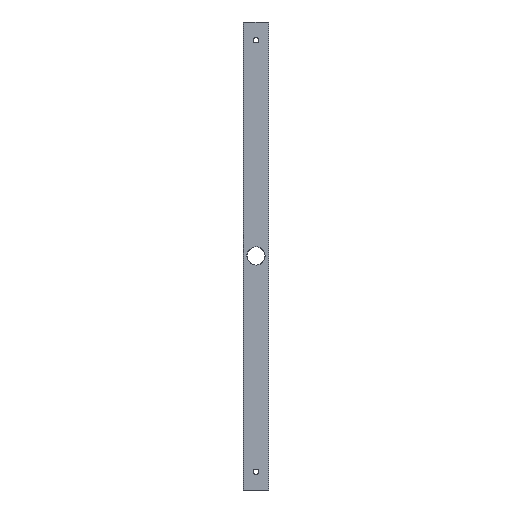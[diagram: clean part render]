
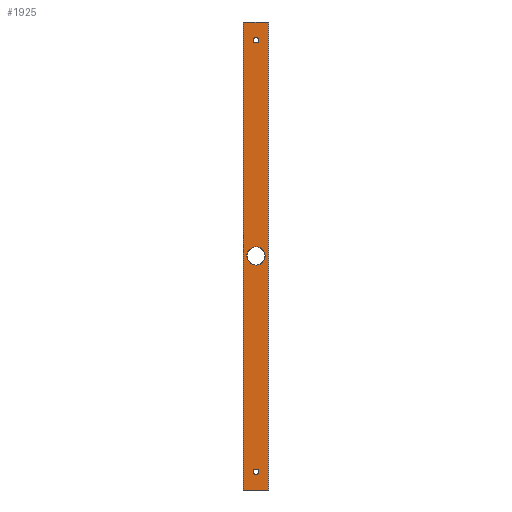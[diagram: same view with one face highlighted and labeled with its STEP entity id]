
A CAD part, front view. The second image highlights one B-rep face of the part: STEP entity #1925.
In plain terms, the highlighted planar face has unit normal (0, -1, 0).
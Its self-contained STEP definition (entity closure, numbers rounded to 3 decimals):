
#20=CIRCLE('',#2049,3.);
#21=CIRCLE('',#2050,3.);
#22=CIRCLE('',#2051,10.);
#129=PLANE('',#2048);
#180=LINE('',#2919,#342);
#181=LINE('',#2922,#343);
#182=LINE('',#2924,#344);
#183=LINE('',#2926,#345);
#342=VECTOR('',#2289,1000.);
#343=VECTOR('',#2290,1000.);
#344=VECTOR('',#2291,1000.);
#345=VECTOR('',#2292,1000.);
#532=ORIENTED_EDGE('',*,*,#1130,.T.);
#533=ORIENTED_EDGE('',*,*,#1131,.F.);
#534=ORIENTED_EDGE('',*,*,#1132,.F.);
#535=ORIENTED_EDGE('',*,*,#1133,.T.);
#536=ORIENTED_EDGE('',*,*,#1134,.T.);
#537=ORIENTED_EDGE('',*,*,#1135,.T.);
#538=ORIENTED_EDGE('',*,*,#1136,.T.);
#1130=EDGE_CURVE('',#1425,#1426,#180,.T.);
#1131=EDGE_CURVE('',#1427,#1426,#181,.T.);
#1132=EDGE_CURVE('',#1428,#1427,#182,.T.);
#1133=EDGE_CURVE('',#1428,#1425,#183,.T.);
#1134=EDGE_CURVE('',#1429,#1429,#20,.T.);
#1135=EDGE_CURVE('',#1430,#1430,#21,.T.);
#1136=EDGE_CURVE('',#1431,#1431,#22,.T.);
#1425=VERTEX_POINT('',#2920);
#1426=VERTEX_POINT('',#2921);
#1427=VERTEX_POINT('',#2923);
#1428=VERTEX_POINT('',#2925);
#1429=VERTEX_POINT('',#2928);
#1430=VERTEX_POINT('',#2930);
#1431=VERTEX_POINT('',#2932);
#1650=EDGE_LOOP('',(#532,#533,#534,#535));
#1651=EDGE_LOOP('',(#536));
#1652=EDGE_LOOP('',(#537));
#1653=EDGE_LOOP('',(#538));
#1758=FACE_BOUND('',#1650,.T.);
#1759=FACE_BOUND('',#1651,.T.);
#1760=FACE_BOUND('',#1652,.T.);
#1761=FACE_BOUND('',#1653,.T.);
#1925=ADVANCED_FACE('',(#1758,#1759,#1760,#1761),#129,.F.);
#2048=AXIS2_PLACEMENT_3D('',#2918,#2287,#2288);
#2049=AXIS2_PLACEMENT_3D('',#2927,#2293,#2294);
#2050=AXIS2_PLACEMENT_3D('',#2929,#2295,#2296);
#2051=AXIS2_PLACEMENT_3D('',#2931,#2297,#2298);
#2287=DIRECTION('',(0.,1.,0.));
#2288=DIRECTION('',(-1.,0.,0.));
#2289=DIRECTION('',(1.,0.,0.));
#2290=DIRECTION('',(0.,0.,-1.));
#2291=DIRECTION('',(1.,0.,0.));
#2292=DIRECTION('',(0.,0.,-1.));
#2293=DIRECTION('',(0.,1.,0.));
#2294=DIRECTION('',(1.,0.,0.));
#2295=DIRECTION('',(0.,1.,0.));
#2296=DIRECTION('',(1.,0.,0.));
#2297=DIRECTION('',(0.,1.,0.));
#2298=DIRECTION('',(0.,0.,-1.));
#2918=CARTESIAN_POINT('',(-13.5,-32.,256.5));
#2919=CARTESIAN_POINT('',(-13.5,-32.,-256.5));
#2920=CARTESIAN_POINT('',(-13.5,-32.,-256.5));
#2921=CARTESIAN_POINT('',(13.5,-32.,-256.5));
#2922=CARTESIAN_POINT('',(13.5,-32.,256.5));
#2923=CARTESIAN_POINT('',(13.5,-32.,256.5));
#2924=CARTESIAN_POINT('',(-13.5,-32.,256.5));
#2925=CARTESIAN_POINT('',(-13.5,-32.,256.5));
#2926=CARTESIAN_POINT('',(-13.5,-32.,256.5));
#2927=CARTESIAN_POINT('',(0.,-32.,236.5));
#2928=CARTESIAN_POINT('',(3.,-32.,236.5));
#2929=CARTESIAN_POINT('',(0.,-32.,-236.5));
#2930=CARTESIAN_POINT('',(3.,-32.,-236.5));
#2931=CARTESIAN_POINT('',(0.,-32.,0.));
#2932=CARTESIAN_POINT('',(0.,-32.,-10.));
